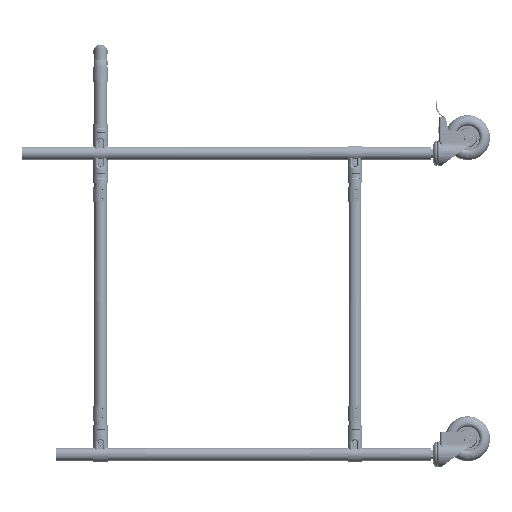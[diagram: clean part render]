
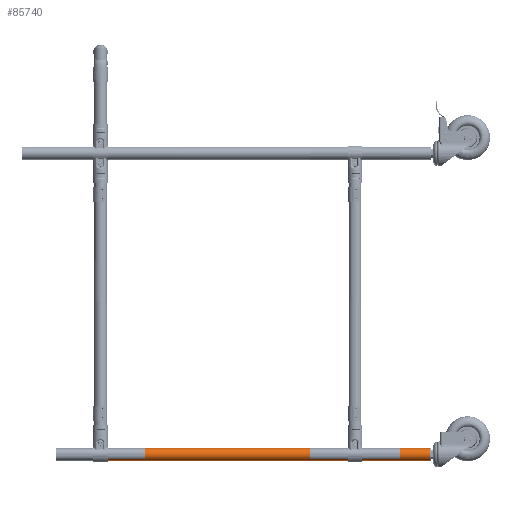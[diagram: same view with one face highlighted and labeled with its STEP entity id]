
A CAD part, left-side view. The second image highlights one B-rep face of the part: STEP entity #85740.
In plain terms, the highlighted cylindrical face has radius 14 mm (diameter 28 mm), a partial arc.
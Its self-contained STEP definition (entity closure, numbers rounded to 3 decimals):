
#106 = DIRECTION ( 'NONE',  ( 1., 0., 0. ) ) ;
#1751 = FACE_OUTER_BOUND ( 'NONE', #19891, .T. ) ;
#8876 = CARTESIAN_POINT ( 'NONE',  ( 14., 0., -375. ) ) ;
#14674 = AXIS2_PLACEMENT_3D ( 'NONE', #81487, #32391, #49437 ) ;
#18801 = EDGE_CURVE ( 'NONE', #79918, #87509, #47034, .T. ) ;
#19788 = AXIS2_PLACEMENT_3D ( 'NONE', #82240, #25160, #106 ) ;
#19891 = EDGE_LOOP ( 'NONE', ( #67192, #38964, #26783, #82186 ) ) ;
#25160 = DIRECTION ( 'NONE',  ( 0., 0., 1. ) ) ;
#26783 = ORIENTED_EDGE ( 'NONE', *, *, #99301, .T. ) ;
#32391 = DIRECTION ( 'NONE',  ( 0., 0., 1. ) ) ;
#34286 = CARTESIAN_POINT ( 'NONE',  ( 0., 0., 375. ) ) ;
#38020 = VECTOR ( 'NONE', #55878, 1000. ) ;
#38964 = ORIENTED_EDGE ( 'NONE', *, *, #52741, .T. ) ;
#39478 = AXIS2_PLACEMENT_3D ( 'NONE', #34286, #98799, #56766 ) ;
#43024 = CARTESIAN_POINT ( 'NONE',  ( -14., 0., 375. ) ) ;
#43883 = CARTESIAN_POINT ( 'NONE',  ( 14., 0., 375. ) ) ;
#47034 = CIRCLE ( 'NONE', #14674, 14. ) ;
#49437 = DIRECTION ( 'NONE',  ( 1., 0., 0. ) ) ;
#52741 = EDGE_CURVE ( 'NONE', #79918, #95742, #87358, .T. ) ;
#55878 = DIRECTION ( 'NONE',  ( 0., 0., -1. ) ) ;
#56766 = DIRECTION ( 'NONE',  ( -1., 0., 0. ) ) ;
#60807 = DIRECTION ( 'NONE',  ( 0., 0., -1. ) ) ;
#67192 = ORIENTED_EDGE ( 'NONE', *, *, #18801, .F. ) ;
#67762 = CARTESIAN_POINT ( 'NONE',  ( -14., 0., 375. ) ) ;
#68672 = EDGE_CURVE ( 'NONE', #87509, #102815, #99689, .T. ) ;
#73818 = CYLINDRICAL_SURFACE ( 'NONE', #39478, 14. ) ;
#79918 = VERTEX_POINT ( 'NONE', #43883 ) ;
#81183 = CIRCLE ( 'NONE', #19788, 14. ) ;
#81487 = CARTESIAN_POINT ( 'NONE',  ( 0., 0., 375. ) ) ;
#81780 = VECTOR ( 'NONE', #60807, 1000. ) ;
#82186 = ORIENTED_EDGE ( 'NONE', *, *, #68672, .F. ) ;
#82240 = CARTESIAN_POINT ( 'NONE',  ( 0., 0., -375. ) ) ;
#85740 = ADVANCED_FACE ( 'NONE', ( #1751 ), #73818, .T. ) ;
#87358 = LINE ( 'NONE', #104867, #38020 ) ;
#87509 = VERTEX_POINT ( 'NONE', #43024 ) ;
#95742 = VERTEX_POINT ( 'NONE', #8876 ) ;
#98799 = DIRECTION ( 'NONE',  ( 0., 0., -1. ) ) ;
#99301 = EDGE_CURVE ( 'NONE', #95742, #102815, #81183, .T. ) ;
#99689 = LINE ( 'NONE', #67762, #81780 ) ;
#102815 = VERTEX_POINT ( 'NONE', #103267 ) ;
#103267 = CARTESIAN_POINT ( 'NONE',  ( -14., 0., -375. ) ) ;
#104867 = CARTESIAN_POINT ( 'NONE',  ( 14., 0., 375. ) ) ;
